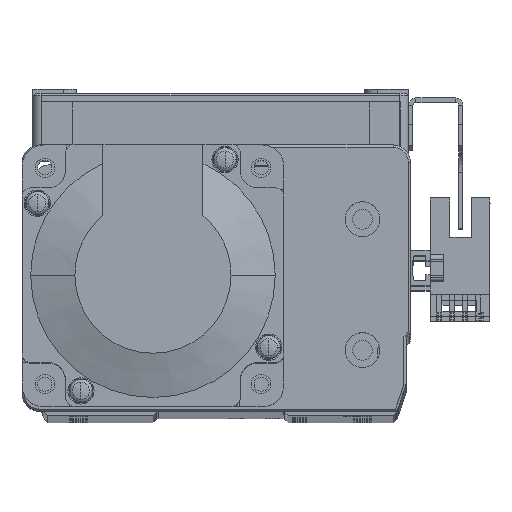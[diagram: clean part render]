
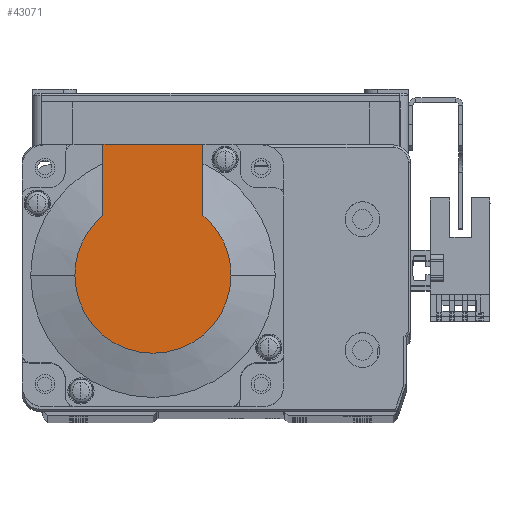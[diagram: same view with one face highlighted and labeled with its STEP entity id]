
A CAD part, top view. The second image highlights one B-rep face of the part: STEP entity #43071.
In plain terms, the highlighted planar face has unit normal (0, 0, 1) as drawn and (-1, 0, 0) by its records, which use the part's own axes.
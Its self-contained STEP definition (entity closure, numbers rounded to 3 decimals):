
#238 = CIRCLE ( 'NONE', #20648, 17.881 ) ;
#336 = LINE ( 'NONE', #6063, #338 ) ;
#338 = VECTOR ( 'NONE', #6061, 1000. ) ;
#364 = VECTOR ( 'NONE', #25566, 1000. ) ;
#395 = LINE ( 'NONE', #25554, #425 ) ;
#421 = LINE ( 'NONE', #25623, #364 ) ;
#425 = VECTOR ( 'NONE', #25480, 1000. ) ;
#3098 = EDGE_LOOP ( 'NONE', ( #35881, #35853, #35852, #35797, #35844, #35858 ) ) ;
#5062 = EDGE_CURVE ( 'NONE', #32320, #32359, #12593, .T. ) ;
#5128 = EDGE_CURVE ( 'NONE', #32359, #32374, #12661, .T. ) ;
#5932 = DIRECTION ( 'NONE',  ( -1., 0., 0. ) ) ;
#5933 = DIRECTION ( 'NONE',  ( 0., 0., -1. ) ) ;
#5947 = CARTESIAN_POINT ( 'NONE',  ( -99., 0., 0. ) ) ;
#6061 = DIRECTION ( 'NONE',  ( 0., -1., 0. ) ) ;
#6063 = CARTESIAN_POINT ( 'NONE',  ( -99., 0., 11.45 ) ) ;
#7424 = FACE_OUTER_BOUND ( 'NONE', #3098, .T. ) ;
#12593 = CIRCLE ( 'NONE', #19694, 17.881 ) ;
#12661 = CIRCLE ( 'NONE', #19696, 17.881 ) ;
#14096 = DIRECTION ( 'NONE',  ( -1., 0., 0. ) ) ;
#14112 = PLANE ( 'NONE',  #14760 ) ;
#14123 = DIRECTION ( 'NONE',  ( 0., 0., 1. ) ) ;
#14126 = CARTESIAN_POINT ( 'NONE',  ( -99., -8.941, 0. ) ) ;
#14760 = AXIS2_PLACEMENT_3D ( 'NONE', #14126, #14096, #14123 ) ;
#19694 = AXIS2_PLACEMENT_3D ( 'NONE', #48832, #48843, #48867 ) ;
#19696 = AXIS2_PLACEMENT_3D ( 'NONE', #48903, #48944, #48945 ) ;
#20648 = AXIS2_PLACEMENT_3D ( 'NONE', #5947, #5932, #5933 ) ;
#25480 = DIRECTION ( 'NONE',  ( 0., 0., 1. ) ) ;
#25554 = CARTESIAN_POINT ( 'NONE',  ( -99., 30., 25. ) ) ;
#25566 = DIRECTION ( 'NONE',  ( 0., -1., 0. ) ) ;
#25623 = CARTESIAN_POINT ( 'NONE',  ( -99., -8.941, -11.45 ) ) ;
#30618 = EDGE_CURVE ( 'NONE', #32556, #32320, #238, .T. ) ;
#30670 = EDGE_CURVE ( 'NONE', #32600, #32374, #336, .T. ) ;
#30720 = EDGE_CURVE ( 'NONE', #32509, #32600, #395, .T. ) ;
#30734 = EDGE_CURVE ( 'NONE', #32509, #32556, #421, .T. ) ;
#32320 = VERTEX_POINT ( 'NONE', #43951 ) ;
#32359 = VERTEX_POINT ( 'NONE', #43973 ) ;
#32374 = VERTEX_POINT ( 'NONE', #44021 ) ;
#32509 = VERTEX_POINT ( 'NONE', #44132 ) ;
#32556 = VERTEX_POINT ( 'NONE', #44174 ) ;
#32600 = VERTEX_POINT ( 'NONE', #44189 ) ;
#35797 = ORIENTED_EDGE ( 'NONE', *, *, #5128, .T. ) ;
#35844 = ORIENTED_EDGE ( 'NONE', *, *, #30670, .F. ) ;
#35852 = ORIENTED_EDGE ( 'NONE', *, *, #5062, .T. ) ;
#35853 = ORIENTED_EDGE ( 'NONE', *, *, #30618, .T. ) ;
#35858 = ORIENTED_EDGE ( 'NONE', *, *, #30720, .F. ) ;
#35881 = ORIENTED_EDGE ( 'NONE', *, *, #30734, .T. ) ;
#43071 = ADVANCED_FACE ( 'NONE', ( #7424 ), #14112, .T. ) ;
#43951 = CARTESIAN_POINT ( 'NONE',  ( -99., 0., -17.881 ) ) ;
#43973 = CARTESIAN_POINT ( 'NONE',  ( -99., 0., 17.881 ) ) ;
#44021 = CARTESIAN_POINT ( 'NONE',  ( -99., 13.735, 11.45 ) ) ;
#44132 = CARTESIAN_POINT ( 'NONE',  ( -99., 30., -11.45 ) ) ;
#44174 = CARTESIAN_POINT ( 'NONE',  ( -99., 13.735, -11.45 ) ) ;
#44189 = CARTESIAN_POINT ( 'NONE',  ( -99., 30., 11.45 ) ) ;
#48832 = CARTESIAN_POINT ( 'NONE',  ( -99., 0., 0. ) ) ;
#48843 = DIRECTION ( 'NONE',  ( -1., 0., 0. ) ) ;
#48867 = DIRECTION ( 'NONE',  ( 0., 0., -1. ) ) ;
#48903 = CARTESIAN_POINT ( 'NONE',  ( -99., 0., 0. ) ) ;
#48944 = DIRECTION ( 'NONE',  ( -1., 0., 0. ) ) ;
#48945 = DIRECTION ( 'NONE',  ( 0., 0., -1. ) ) ;
